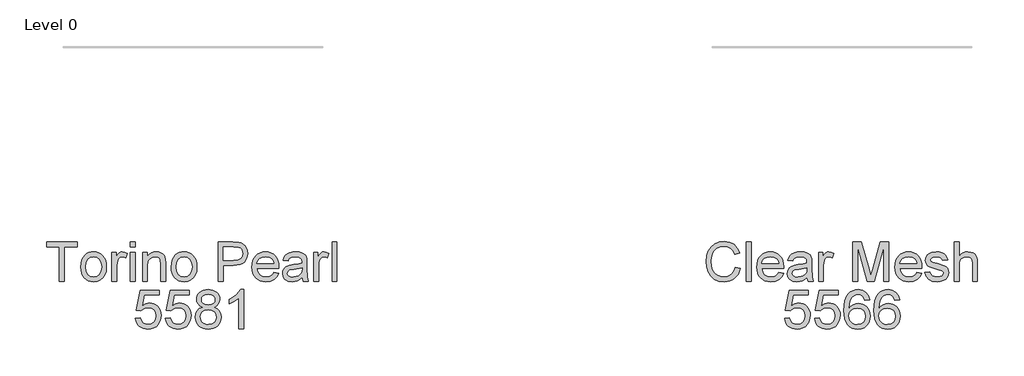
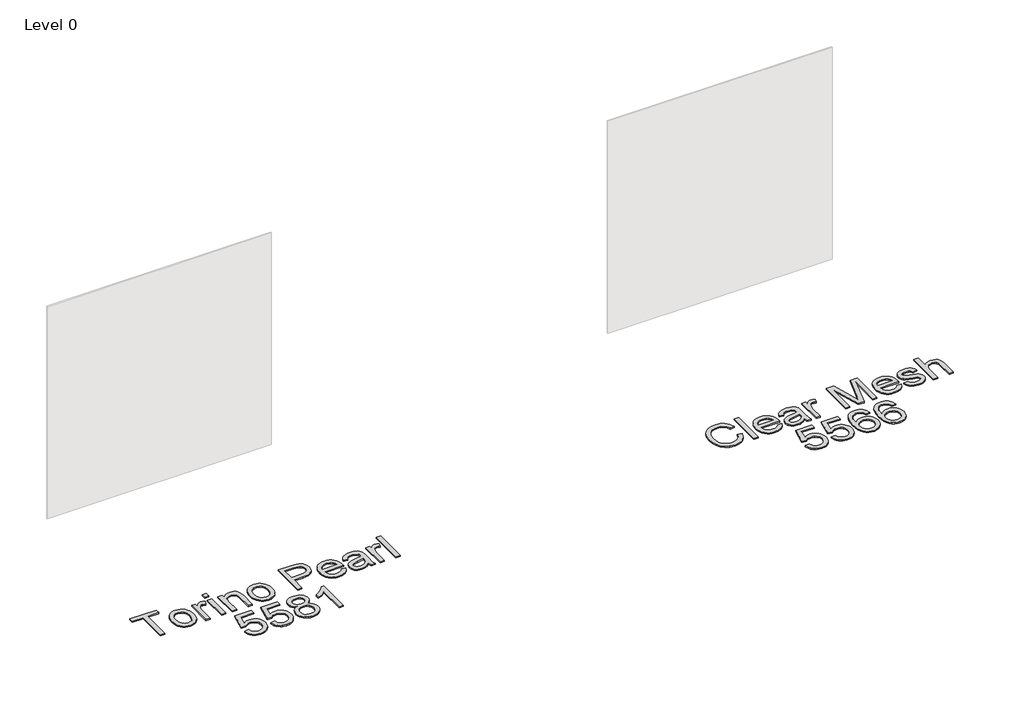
# One storey, part 7 of 8: 2 proxies.
"""IFC4 building model written with IfcOpenShell, lengths in millimetres."""

from ifc_helpers import new_model, si_unit, origin, origin_with_axes, place, context, project, spatial, polyline, outline, extrude, element, save

model = new_model("IFC4")

# Units and contexts
model_context = context("Model", 3, world=origin())
ifc_project = project(units=[si_unit("LENGTHUNIT", "METRE", prefix="MILLI")], contexts=[model_context])

# Site, building, storey
site = spatial("IfcSite", under=ifc_project)
building = spatial("IfcBuilding", under=site)
storey = spatial("IfcBuildingStorey", under=building, Name="Level 0", Elevation=0.0)

# Proxies
placement = place(None, origin())
element("IfcBuildingElementProxy", 1, Name="300mm Arial", ObjectType="300mm Arial", at=placement, inside=storey, context=model_context, shape_type="SweptSolid", body=[
    extrude(outline(polyline([(9727.6407193, -6895.733257), (9765.3118356, -6905.4453417), (9757.8576266, -6928.872527), (9747.9294113, -6949.3428607), (9735.5271895, -6966.856343), (9720.6509614, -6981.4129737), (9703.6364191, -6992.856403), (9684.819255, -7001.0302811), (9664.1994692, -7005.9346079), (9641.7770616, -7007.5693835), (9598.0818776, -7002.6213707), (9563.3814084, -6987.7773322), (9536.7835402, -6963.5523028), (9517.396159, -6930.4613173), (9505.5595558, -6891.5577963), (9501.6140214, -6849.8951604), (9506.0745906, -6805.9516561), (9519.4562982, -6768.0046283), (9541.0601684, -6737.2588905), (9570.1872253, -6714.9192564), (9604.7313447, -6701.3168196), (9642.586402, -6696.782674), (9683.890353, -6702.6503918), (9701.8590892, -6709.9850391), (9718.0389992, -6720.2535453), (9732.1633685, -6733.1845974), (9743.9654828, -6748.5068825), (9760.602946, -6786.3251516), (9722.9318297, -6795.3014723), (9709.8720189, -6767.8298843), (9692.0297421, -6748.9851291), (9669.1842702, -6738.086625), (9641.114874, -6734.4537903), (9608.7596525, -6738.4820981), (9582.1801784, -6750.5670217), (9562.011048, -6769.439368), (9548.8868578, -6793.8299443), (9541.6855678, -6821.4026999), (9539.2851377, -6849.821584), (9542.1270261, -6884.6232207), (9550.6526914, -6914.7159679), (9565.1840302, -6938.9501944), (9586.0429393, -6956.1762688), (9611.0497179, -6966.4677676), (9638.0246652, -6969.8982672), (9669.4693788, -6965.2261659), (9695.6717739, -6951.2098619), (9715.4546282, -6927.996508), (9727.6407193, -6895.733257)])), origin_with_axes(), (0.0, 0.0, 1.0), 10.0),
    extrude(outline(polyline([(9812.400731, -7002.860494), (9812.400731, -6701.4915635), (9850.0718473, -6701.4915635), (9850.0718473, -7002.860494), (9812.400731, -7002.860494)])), origin_with_axes(), (0.0, 0.0, 1.0), 10.0),
    extrude(outline(polyline([(10061.5304181, -6936.9360404), (10098.4657704, -6941.64493), (10085.1576392, -6969.4752029), (10063.9216511, -6990.2789297), (10035.2360525, -7003.2467701), (9999.5790901, -7007.5693835), (9976.2047878, -7005.7046817), (9955.3780684, -7000.1105761), (9937.0989317, -6990.7870668), (9921.3673779, -6977.7341537), (9908.7168358, -6961.3151204), (9899.6807343, -6941.8932503), (9894.2590734, -6919.4685435), (9892.4518531, -6894.0409998), (9894.2774675, -6867.7512327), (9899.7543107, -6844.5792656), (9908.8823827, -6824.5250983), (9921.6616835, -6807.5887309), (9937.3518506, -6794.133447), (9955.2125215, -6784.5225298), (9975.2436961, -6778.7559796), (9997.4453745, -6776.8337961), (10018.9319823, -6778.751381), (10038.3630494, -6784.5041357), (10055.7385759, -6794.0920602), (10071.0585618, -6807.5151545), (10083.5642503, -6824.4147337), (10092.496885, -6844.4321128), (10097.8564658, -6867.5672917), (10099.6429928, -6893.8202706), (10099.4222636, -6903.9738137), (9930.1229694, -6903.9738137), (9936.6436778, -6932.1719686), (9951.7912189, -6952.902119), (9973.6526065, -6965.6492302), (10000.3148541, -6969.8982672), (10020.3644228, -6967.9300985), (10037.2502064, -6962.0255925), (10050.9722048, -6951.8168672), (10061.5304181, -6936.9360404)]), holes=[polyline([(9930.1229694, -6866.3026974), (10061.9718765, -6866.3026974), (10056.8767108, -6846.4002814), (10046.8887147, -6832.1632482), (10024.9261596, -6818.9194964), (9997.2982217, -6814.5049125), (9971.905167, -6818.0273826), (9950.9083021, -6828.5947929), (9936.312584, -6845.0667092), (9930.1229694, -6866.3026974)])]), origin_with_axes(), (0.0, 0.0, 1.0), 10.0),
    extrude(outline(polyline([(10278.5807952, -6974.6071568), (10260.5821686, -6990.0398064), (10242.0501131, -7000.1381672), (10222.5615644, -7005.7115794), (10201.6934583, -7007.5693835), (10170.2119565, -7003.0996173), (10146.9894056, -6989.6903186), (10132.6695989, -6969.3280501), (10127.89633, -6943.9993748), (10129.6989518, -6928.3827841), (10135.1068171, -6914.2009331), (10143.4485414, -6902.0608273), (10154.0527399, -6892.5694718), (10180.4298789, -6880.2086368), (10213.0242237, -6874.5432541), (10251.5414686, -6868.5835657), (10278.360066, -6861.5938078), (10278.5807952, -6853.2060983), (10275.9872272, -6836.3938912), (10268.206523, -6825.3942195), (10250.8057046, -6817.2272392), (10226.5622811, -6814.5049125), (10204.1214794, -6816.3167313), (10188.4497064, -6821.7521878), (10177.7627345, -6831.8045633), (10170.2763359, -6847.4671392), (10132.6052196, -6842.7582497), (10139.144322, -6822.156858), (10148.9023919, -6805.9700502), (10162.7899373, -6793.590821), (10181.7174659, -6784.4121652), (10204.8664405, -6778.7283884), (10231.4183235, -6776.8337961), (10256.8849546, -6778.5076592), (10277.0724791, -6783.5292485), (10292.2935966, -6791.0800264), (10302.8610069, -6800.3414556), (10309.8691589, -6811.7917827), (10314.4125016, -6825.9092543), (10316.2519115, -6858.8714811), (10316.2519115, -6905.7396473), (10318.1648979, -6971.1858542), (10325.6696906, -7002.860494), (10287.9985743, -7002.860494), (10278.5807952, -6974.6071568)]), holes=[polyline([(10278.5807952, -6899.2649241), (10217.8066896, -6910.8164188), (10185.3962859, -6916.9232599), (10170.7177943, -6926.8560738), (10165.5674463, -6941.3506244), (10168.3725465, -6952.5526311), (10176.7878472, -6961.7312869), (10190.6294072, -6967.8565221), (10209.7132857, -6969.8982672), (10229.9467955, -6967.64499), (10247.8258604, -6960.8851583), (10262.3204111, -6950.9247533), (10272.4003777, -6939.069756), (10276.870144, -6926.8560738), (10278.360066, -6909.933502), (10278.5807952, -6899.2649241)])]), origin_with_axes(), (0.0, 0.0, 1.0), 10.0),
    extrude(outline(polyline([(10368.0496965, -7002.860494), (10368.0496965, -6781.5426857), (10401.0119232, -6781.5426857), (10401.0119232, -6814.2841833), (10413.1888173, -6795.3014723), (10424.4092181, -6784.1178596), (10435.6664072, -6778.654812), (10447.9536658, -6776.8337961), (10466.7156476, -6779.7400639), (10485.7719349, -6788.4588672), (10473.1903707, -6822.2304343), (10459.9466189, -6816.4362929), (10446.702867, -6814.5049125), (10435.454875, -6816.3627165), (10425.4024995, -6821.9361288), (10417.2815045, -6830.8020848), (10411.8276539, -6842.5375205), (10407.2475231, -6863.5803706), (10405.7208128, -6886.5362071), (10405.7208128, -7002.860494), (10368.0496965, -7002.860494)])), origin_with_axes(), (0.0, 0.0, 1.0), 10.0),
    extrude(outline(polyline([(10631.7475106, -7002.860494), (10631.7475106, -6701.4915635), (10696.5683182, -6701.4915635), (10758.2253406, -6913.9066275), (10770.659752, -6958.2731962), (10784.124233, -6910.2278076), (10844.7511858, -6701.4915635), (10909.5719934, -6701.4915635), (10909.5719934, -7002.860494), (10871.9008771, -7002.860494), (10871.9008771, -6739.1626798), (10796.1907625, -7002.860494), (10745.1287415, -7002.860494), (10669.4186269, -6739.1626798), (10669.4186269, -7002.860494), (10631.7475106, -7002.860494)])), origin_with_axes(), (0.0, 0.0, 1.0), 10.0),
    extrude(outline(polyline([(11125.7394537, -6936.9360404), (11162.6748061, -6941.64493), (11149.3666749, -6969.4752029), (11128.1306867, -6990.2789297), (11099.4450881, -7003.2467701), (11063.7881257, -7007.5693835), (11040.4138235, -7005.7046817), (11019.587104, -7000.1105761), (11001.3079674, -6990.7870668), (10985.5764136, -6977.7341537), (10972.9258715, -6961.3151204), (10963.88977, -6941.8932503), (10958.4681091, -6919.4685435), (10956.6608888, -6894.0409998), (10958.4865032, -6867.7512327), (10963.9633464, -6844.5792656), (10973.0914184, -6824.5250983), (10985.8707192, -6807.5887309), (11001.5608863, -6794.133447), (11019.4215571, -6784.5225298), (11039.4527318, -6778.7559796), (11061.6544102, -6776.8337961), (11083.141018, -6778.751381), (11102.5720851, -6784.5041357), (11119.9476116, -6794.0920602), (11135.2675974, -6807.5151545), (11147.773286, -6824.4147337), (11156.7059207, -6844.4321128), (11162.0655015, -6867.5672917), (11163.8520284, -6893.8202706), (11163.6312992, -6903.9738137), (10994.3320051, -6903.9738137), (11000.8527134, -6932.1719686), (11016.0002546, -6952.902119), (11037.8616421, -6965.6492302), (11064.5238897, -6969.8982672), (11084.5734585, -6967.9300985), (11101.4592421, -6962.0255925), (11115.1812405, -6951.8168672), (11125.7394537, -6936.9360404)]), holes=[polyline([(10994.3320051, -6866.3026974), (11126.1809121, -6866.3026974), (11121.0857465, -6846.4002814), (11111.0977503, -6832.1632482), (11089.1351952, -6818.9194964), (11061.5072574, -6814.5049125), (11036.1142027, -6818.0273826), (11015.1173378, -6828.5947929), (11000.5216196, -6845.0667092), (10994.3320051, -6866.3026974)])]), origin_with_axes(), (0.0, 0.0, 1.0), 10.0),
    extrude(outline(polyline([(11187.3964761, -6936.9360404), (11225.0675924, -6932.2271509), (11231.0088867, -6948.3403823), (11242.505199, -6960.1861825), (11259.6301059, -6967.470246), (11282.4571837, -6969.8982672), (11305.00835, -6967.6725811), (11320.864064, -6960.9955229), (11330.2450549, -6951.3202265), (11333.3720518, -6940.0998256), (11330.2266608, -6930.4981055), (11320.7904876, -6923.1772538), (11282.0157253, -6912.4350996), (11225.2883216, -6894.0042116), (11210.9317268, -6884.7427824), (11200.5298634, -6872.4831149), (11194.2114901, -6858.0069584), (11192.1053657, -6842.0960621), (11193.7976228, -6827.5003439), (11198.8743944, -6814.0266659), (11206.8758278, -6802.2084568), (11217.3420705, -6792.5791455), (11241.2911884, -6781.4323211), (11273.7015922, -6776.8337961), (11298.2209272, -6778.6824032), (11319.5396888, -6784.2282242), (11336.6829898, -6792.9286334), (11348.6759428, -6804.2410048), (11356.6221939, -6819.0022698), (11361.625389, -6838.0493601), (11323.9542727, -6842.7582497), (11319.1993979, -6830.9032524), (11309.7908159, -6821.972917), (11295.6365562, -6816.3719136), (11276.6446482, -6814.5049125), (11255.0131868, -6816.2891401), (11240.5922126, -6821.6418232), (11232.4804146, -6829.3673451), (11229.776482, -6838.2700893), (11234.2646423, -6849.2329728), (11248.3177345, -6857.5471059), (11280.7649265, -6865.5669334), (11336.0575904, -6883.2988455), (11350.6625056, -6891.7785255), (11361.7357536, -6903.3852025), (11368.7163145, -6918.1556646), (11371.0431681, -6936.1267001), (11368.3116443, -6954.7047408), (11360.1170729, -6972.1791356), (11346.7721535, -6987.1795239), (11328.5895859, -6998.3355454), (11306.6270308, -7005.260924), (11281.9421489, -7007.5693835), (11243.9583329, -7003.1180114), (11216.2384245, -6989.763895), (11197.7339602, -6967.654187), (11187.3964761, -6936.9360404)])), origin_with_axes(), (0.0, 0.0, 1.0), 10.0),
    extrude(outline(polyline([(11413.423174, -7002.860494), (11413.423174, -6701.4915635), (11451.0942903, -6701.4915635), (11451.0942903, -6812.2976205), (11464.9312518, -6796.7821973), (11480.4696676, -6785.6997522), (11497.7095376, -6779.0502852), (11516.6508618, -6776.8337961), (11539.4043632, -6779.2526203), (11558.9572913, -6786.5090926), (11574.3531528, -6798.0329961), (11584.6354545, -6813.2541137), (11590.4295959, -6834.1682051), (11592.3609764, -6862.7710302), (11592.3609764, -7002.860494), (11554.6898601, -7002.860494), (11554.6898601, -6866.6705794), (11551.6916219, -6843.0893435), (11542.6969071, -6826.9393239), (11528.2023565, -6817.6135153), (11508.7046107, -6814.5049125), (11492.7845174, -6816.6018398), (11477.8393113, -6822.8926219), (11465.4600822, -6832.7702535), (11457.2379196, -6845.6277292), (11452.6301976, -6862.7158479), (11451.0942903, -6885.2854083), (11451.0942903, -7002.860494), (11413.423174, -7002.860494)])), origin_with_axes(), (0.0, 0.0, 1.0), 10.0),
    extrude(outline(polyline([(10106.7063271, -7288.7338254), (10144.3774434, -7284.0249358), (10151.2936249, -7306.6404815), (10163.3601544, -7322.8364863), (10180.5218494, -7332.5761621), (10202.7235278, -7335.8227207), (10229.7260663, -7331.3069693), (10249.959576, -7317.7597148), (10262.5963226, -7296.7444558), (10266.8085714, -7269.8246908), (10262.863037, -7244.4776213), (10251.0264338, -7225.0902402), (10231.2067913, -7212.7845875), (10203.312139, -7208.6827032), (10185.0376009, -7210.3197781), (10170.2395477, -7215.2310027), (10149.0863329, -7232.2271509), (10111.4152166, -7227.5182614), (10144.3774434, -7072.1249066), (10290.3530191, -7072.1249066), (10290.3530191, -7109.7960229), (10174.8380726, -7109.7960229), (10158.7248412, -7192.790201), (10185.6354092, -7176.4562404), (10213.8335641, -7171.0115869), (10232.1793793, -7172.6992456), (10249.030674, -7177.7622215), (10264.387448, -7186.2005148), (10278.2497014, -7198.0141254), (10289.7253204, -7212.4810848), (10297.9221911, -7228.8794248), (10302.8403136, -7247.2091452), (10304.4796877, -7267.470246), (10298.5751817, -7305.1413624), (10291.1945492, -7321.9351754), (10280.8616636, -7337.3678251), (10265.2082847, -7353.1729553), (10246.9429437, -7364.4623341), (10226.0656404, -7371.2359613), (10202.576375, -7373.4938371), (10165.5766434, -7367.6904986), (10149.8979726, -7360.4363255), (10136.1000985, -7350.2804832), (10124.619881, -7337.7288093), (10115.8941799, -7323.2871418), (10106.7063271, -7288.7338254)])), origin_with_axes(), (0.0, 0.0, 1.0), 10.0),
    extrude(outline(polyline([(10337.4419145, -7288.7338254), (10375.1130308, -7284.0249358), (10382.0292123, -7306.6404815), (10394.0957417, -7322.8364863), (10411.2574368, -7332.5761621), (10433.4591152, -7335.8227207), (10460.4616537, -7331.3069693), (10480.6951634, -7317.7597148), (10493.3319099, -7296.7444558), (10497.5441588, -7269.8246908), (10493.5986244, -7244.4776213), (10481.7620212, -7225.0902402), (10461.9423787, -7212.7845875), (10434.0477264, -7208.6827032), (10415.7731883, -7210.3197781), (10400.975135, -7215.2310027), (10379.8219203, -7232.2271509), (10342.150804, -7227.5182614), (10375.1130308, -7072.1249066), (10521.0886065, -7072.1249066), (10521.0886065, -7109.7960229), (10405.57366, -7109.7960229), (10389.4604286, -7192.790201), (10416.3709965, -7176.4562404), (10444.5691515, -7171.0115869), (10462.9149667, -7172.6992456), (10479.7662614, -7177.7622215), (10495.1230354, -7186.2005148), (10508.9852888, -7198.0141254), (10520.4609078, -7212.4810848), (10528.6577785, -7228.8794248), (10533.5759009, -7247.2091452), (10535.2152751, -7267.470246), (10529.3107691, -7305.1413624), (10521.9301365, -7321.9351754), (10511.597251, -7337.3678251), (10495.9438721, -7353.1729553), (10477.678531, -7364.4623341), (10456.8012278, -7371.2359613), (10433.3119624, -7373.4938371), (10396.3122307, -7367.6904986), (10380.63356, -7360.4363255), (10366.8356859, -7350.2804832), (10355.3554684, -7337.7288093), (10346.6297673, -7323.2871418), (10337.4419145, -7288.7338254)])), origin_with_axes(), (0.0, 0.0, 1.0), 10.0),
    extrude(outline(polyline([(10761.2419729, -7147.4671392), (10723.5708566, -7152.1760288), (10717.5008037, -7133.5060175), (10709.2970352, -7120.7589064), (10692.2089165, -7109.0050766), (10671.5523425, -7105.0871334), (10654.0411595, -7107.3680017), (10637.5600461, -7114.2106069), (10623.4057864, -7128.622384), (10611.8450947, -7148.4604206), (10604.0367993, -7176.5206198), (10601.1397286, -7215.5988847), (10616.2504816, -7197.9681401), (10634.3594728, -7185.5429257), (10654.4550268, -7178.1760888), (10675.525468, -7175.7204764), (10693.6252622, -7177.3989381), (10710.3271048, -7182.4343229), (10725.6309958, -7190.8266309), (10739.5369352, -7202.5758621), (10751.0930284, -7216.9830407), (10759.3473806, -7233.349191), (10764.299992, -7251.6743129), (10765.9508625, -7271.9584064), (10762.8422596, -7298.9333537), (10753.516451, -7323.9401323), (10738.7459889, -7345.1485293), (10719.3034255, -7360.7283318), (10696.0716775, -7370.3024607), (10669.9336617, -7373.4938371), (10647.4767652, -7371.3785156), (10627.1949709, -7365.0325512), (10609.088279, -7354.4559438), (10593.1566893, -7339.6486935), (10580.1681556, -7319.9854009), (10570.8906316, -7294.8406665), (10565.3241171, -7264.2144904), (10563.4686123, -7228.1068726), (10565.5287515, -7187.6260575), (10571.709169, -7153.0773396), (10582.0098649, -7124.4607189), (10596.4308391, -7101.7761954), (10612.0612253, -7086.7436174), (10630.1840121, -7076.0060617), (10650.7991994, -7069.5635282), (10673.9067873, -7067.4160171), (10706.9609845, -7072.7319119), (10733.4300941, -7088.6795964), (10751.9713466, -7114.0082718), (10761.2419729, -7147.4671392)]), holes=[polyline([(10601.1397286, -7271.3697952), (10603.3194294, -7288.0624407), (10609.8585319, -7304.0009282), (10620.012075, -7317.7045325), (10633.0350976, -7327.6925287), (10648.7528558, -7333.7901727), (10666.9906058, -7335.8227207), (10691.8502316, -7331.6104719), (10711.3939626, -7318.9737254), (10724.0583003, -7299.1080976), (10728.2797461, -7273.2092052), (10724.1134826, -7248.3495793), (10711.6146918, -7229.3944595), (10691.739867, -7217.3923095), (10665.4455014, -7213.3915928), (10640.6226637, -7217.3923095), (10619.8649222, -7229.3944595), (10605.821027, -7247.8897269), (10601.1397286, -7271.3697952)])]), origin_with_axes(), (0.0, 0.0, 1.0), 10.0),
    extrude(outline(polyline([(10991.9775603, -7147.4671392), (10954.306444, -7152.1760288), (10948.2363911, -7133.5060175), (10940.0326226, -7120.7589064), (10922.9445039, -7109.0050766), (10902.2879299, -7105.0871334), (10884.7767469, -7107.3680017), (10868.2956335, -7114.2106069), (10854.1413737, -7128.622384), (10842.580682, -7148.4604206), (10834.7723867, -7176.5206198), (10831.875316, -7215.5988847), (10846.9860689, -7197.9681401), (10865.0950602, -7185.5429257), (10885.1906141, -7178.1760888), (10906.2610554, -7175.7204764), (10924.3608496, -7177.3989381), (10941.0626922, -7182.4343229), (10956.3665832, -7190.8266309), (10970.2725226, -7202.5758621), (10981.8286157, -7216.9830407), (10990.082968, -7233.349191), (10995.0355794, -7251.6743129), (10996.6864498, -7271.9584064), (10993.577847, -7298.9333537), (10984.2520384, -7323.9401323), (10969.4815763, -7345.1485293), (10950.0390128, -7360.7283318), (10926.8072648, -7370.3024607), (10900.6692491, -7373.4938371), (10878.2123525, -7371.3785156), (10857.9305583, -7365.0325512), (10839.8238663, -7354.4559438), (10823.8922767, -7339.6486935), (10810.903743, -7319.9854009), (10801.6262189, -7294.8406665), (10796.0597045, -7264.2144904), (10794.2041997, -7228.1068726), (10796.2643389, -7187.6260575), (10802.4447564, -7153.0773396), (10812.7454522, -7124.4607189), (10827.1664265, -7101.7761954), (10842.7968127, -7086.7436174), (10860.9195995, -7076.0060617), (10881.5347868, -7069.5635282), (10904.6423746, -7067.4160171), (10937.6965719, -7072.7319119), (10964.1656815, -7088.6795964), (10982.706934, -7114.0082718), (10991.9775603, -7147.4671392)]), holes=[polyline([(10831.875316, -7271.3697952), (10834.0550168, -7288.0624407), (10840.5941193, -7304.0009282), (10850.7476623, -7317.7045325), (10863.770685, -7327.6925287), (10879.4884432, -7333.7901727), (10897.7261931, -7335.8227207), (10922.5858189, -7331.6104719), (10942.1295499, -7318.9737254), (10954.7938876, -7299.1080976), (10959.0153335, -7273.2092052), (10954.8490699, -7248.3495793), (10942.3502791, -7229.3944595), (10922.4754544, -7217.3923095), (10896.1810887, -7213.3915928), (10871.3582511, -7217.3923095), (10850.6005095, -7229.3944595), (10836.5566144, -7247.8897269), (10831.875316, -7271.3697952)])]), origin_with_axes(), (0.0, 0.0, 1.0), 10.0),
])
element("IfcBuildingElementProxy", 2, Name="300mm Arial", ObjectType="300mm Arial", at=placement, inside=storey, context=model_context, shape_type="SweptSolid", body=[
    extrude(outline(polyline([(4520.4495796, -7002.860494), (4520.4495796, -6739.1626798), (4421.5628993, -6739.1626798), (4421.5628993, -6701.4915635), (4657.0073762, -6701.4915635), (4657.0073762, -6739.1626798), (4558.1206959, -6739.1626798), (4558.1206959, -7002.860494), (4520.4495796, -7002.860494)])), origin_with_axes(), (0.0, 0.0, 1.0), 10.0),
    extrude(outline(polyline([(4685.2607134, -6892.2015898), (4687.29786, -6863.5389839), (4693.4092996, -6838.8403064), (4703.5950324, -6818.1055575), (4717.8550582, -6801.334737), (4732.2116531, -6790.6155754), (4748.05817, -6782.9590314), (4765.394609, -6778.3651049), (4784.2209701, -6776.8337961), (4805.0040036, -6778.698498), (4823.7958758, -6784.2926036), (4840.5965866, -6793.6161129), (4855.4061362, -6806.669026), (4867.493359, -6823.0098843), (4876.1270896, -6842.1972296), (4881.3073279, -6864.2310619), (4883.034074, -6889.1113811), (4879.9806535, -6927.1687735), (4870.8203918, -6956.1394806), (4855.8200034, -6977.8353213), (4835.2462029, -6994.0681143), (4810.8096413, -7004.1940662), (4784.2209701, -7007.5693835), (4763.134434, -7005.7115794), (4744.1678179, -7000.1381672), (4727.3211218, -6990.8491468), (4712.5943457, -6977.8445183), (4700.6358816, -6961.3450108), (4692.0941215, -6941.5713536), (4686.9690654, -6918.5235466), (4685.2607134, -6892.2015898)]), holes=[polyline([(4722.9318297, -6892.1280134), (4727.2912314, -6926.2214773), (4740.3694363, -6950.5108861), (4760.051123, -6965.0514219), (4784.2209701, -6969.8982672), (4808.2804526, -6965.0238308), (4827.9253512, -6950.4005215), (4841.0035561, -6925.789216), (4845.3629577, -6890.950791), (4840.9759649, -6857.8506085), (4827.8149866, -6833.8922936), (4808.1424969, -6819.3517577), (4784.2209701, -6814.5049125), (4760.051123, -6819.3333636), (4740.3694363, -6833.8187172), (4727.2912314, -6858.0529436), (4722.9318297, -6892.1280134)])]), origin_with_axes(), (0.0, 0.0, 1.0), 10.0),
    extrude(outline(polyline([(4925.4140799, -7002.860494), (4925.4140799, -6781.5426857), (4958.3763066, -6781.5426857), (4958.3763066, -6814.2841833), (4970.5532007, -6795.3014723), (4981.7736015, -6784.1178596), (4993.0307906, -6778.654812), (5005.3180492, -6776.8337961), (5024.080031, -6779.7400639), (5043.1363183, -6788.4588672), (5030.5547541, -6822.2304343), (5017.3110023, -6816.4362929), (5004.0672504, -6814.5049125), (4992.8192584, -6816.3627165), (4982.7668829, -6821.9361288), (4974.6458879, -6830.8020848), (4969.1920373, -6842.5375205), (4964.6119065, -6863.5803706), (4963.0851962, -6886.5362071), (4963.0851962, -7002.860494), (4925.4140799, -7002.860494)])), origin_with_axes(), (0.0, 0.0, 1.0), 10.0),
    extrude(outline(polyline([(5066.680766, -7002.860494), (5066.680766, -6781.5426857), (5104.3518823, -6781.5426857), (5104.3518823, -7002.860494), (5066.680766, -7002.860494)])), origin_with_axes(), (0.0, 0.0, 1.0), 10.0),
    extrude(outline(polyline([(5066.680766, -6739.1626798), (5066.680766, -6701.4915635), (5104.3518823, -6701.4915635), (5104.3518823, -6739.1626798), (5066.680766, -6739.1626798)])), origin_with_axes(), (0.0, 0.0, 1.0), 10.0),
    extrude(outline(polyline([(5160.8585568, -7002.860494), (5160.8585568, -6781.5426857), (5198.5296731, -6781.5426857), (5198.5296731, -6812.4447733), (5211.6170751, -6796.8649708), (5227.3348333, -6785.7365404), (5245.6829478, -6779.0594822), (5266.6614186, -6776.8337961), (5285.2302623, -6778.6272209), (5302.2356075, -6784.0074951), (5316.4174584, -6792.303234), (5326.5158192, -6802.8430532), (5337.8097965, -6830.5445674), (5339.7963592, -6866.964885), (5339.7963592, -7002.860494), (5302.1252429, -7002.860494), (5302.1252429, -6872.0416565), (5297.7842354, -6838.7115477), (5291.7785618, -6828.7879309), (5282.4435562, -6821.0900002), (5270.4781943, -6816.1511844), (5256.5814519, -6814.5049125), (5234.5177293, -6818.2021265), (5215.7097623, -6829.2937687), (5208.1934733, -6838.3482643), (5202.8246954, -6850.7228949), (5198.5296731, -6885.4325611), (5198.5296731, -7002.860494), (5160.8585568, -7002.860494)])), origin_with_axes(), (0.0, 0.0, 1.0), 10.0),
    extrude(outline(polyline([(5382.1763651, -6892.2015898), (5384.2135116, -6863.5389839), (5390.3249513, -6838.8403064), (5400.510684, -6818.1055575), (5414.7707099, -6801.334737), (5429.1273047, -6790.6155754), (5444.9738217, -6782.9590314), (5462.3102607, -6778.3651049), (5481.1366218, -6776.8337961), (5501.9196553, -6778.698498), (5520.7115274, -6784.2926036), (5537.5122383, -6793.6161129), (5552.3217879, -6806.669026), (5564.4090107, -6823.0098843), (5573.0427412, -6842.1972296), (5578.2229796, -6864.2310619), (5579.9497257, -6889.1113811), (5576.8963051, -6927.1687735), (5567.7360435, -6956.1394806), (5552.7356551, -6977.8353213), (5532.1618545, -6994.0681143), (5507.725293, -7004.1940662), (5481.1366218, -7007.5693835), (5460.0500857, -7005.7115794), (5441.0834696, -7000.1381672), (5424.2367734, -6990.8491468), (5409.5099973, -6977.8445183), (5397.5515332, -6961.3450108), (5389.0097731, -6941.5713536), (5383.8847171, -6918.5235466), (5382.1763651, -6892.2015898)]), holes=[polyline([(5419.8474814, -6892.1280134), (5424.206883, -6926.2214773), (5437.285088, -6950.5108861), (5456.9667747, -6965.0514219), (5481.1366218, -6969.8982672), (5505.1961043, -6965.0238308), (5524.8410028, -6950.4005215), (5537.9192077, -6925.789216), (5542.2786094, -6890.950791), (5537.8916166, -6857.8506085), (5524.7306382, -6833.8922936), (5505.0581485, -6819.3517577), (5481.1366218, -6814.5049125), (5456.9667747, -6819.3333636), (5437.285088, -6833.8187172), (5424.206883, -6858.0529436), (5419.8474814, -6892.1280134)])]), origin_with_axes(), (0.0, 0.0, 1.0), 10.0),
    extrude(outline(polyline([(5744.7608595, -7002.860494), (5744.7608595, -6701.4915635), (5856.4498333, -6701.4915635), (5901.4785895, -6704.3610431), (5921.5557494, -6709.7229232), (5938.082848, -6718.4509235), (5951.3909792, -6730.9405172), (5961.8112367, -6747.5871775), (5968.5434772, -6767.222879), (5970.7875574, -6788.6795964), (5969.2723434, -6807.1794622), (5964.7267015, -6824.198603), (5957.1506317, -6839.7370188), (5946.5441339, -6853.7947095), (5931.9829047, -6865.4473717), (5912.5426405, -6873.7707019), (5888.2233413, -6878.7647), (5859.0250072, -6880.429366), (5782.4319758, -6880.429366), (5782.4319758, -7002.860494), (5744.7608595, -7002.860494)]), holes=[polyline([(5782.4319758, -6842.7582497), (5861.2322992, -6842.7582497), (5894.6359844, -6839.3001589), (5916.7089041, -6828.9258867), (5929.0145568, -6812.2792264), (5933.1164411, -6790.0039716), (5930.6976169, -6773.0813998), (5923.4411446, -6758.8075784), (5912.2483349, -6748.0654241), (5898.0204987, -6741.7378538), (5860.3493824, -6739.1626798), (5782.4319758, -6739.1626798), (5782.4319758, -6842.7582497)])]), origin_with_axes(), (0.0, 0.0, 1.0), 10.0),
    extrude(outline(polyline([(6172.8283491, -6936.9360404), (6209.7637014, -6941.64493), (6196.4555703, -6969.4752029), (6175.2195821, -6990.2789297), (6146.5339835, -7003.2467701), (6110.8770211, -7007.5693835), (6087.5027189, -7005.7046817), (6066.6759994, -7000.1105761), (6048.3968628, -6990.7870668), (6032.665309, -6977.7341537), (6020.0147668, -6961.3151204), (6010.9786653, -6941.8932503), (6005.5570044, -6919.4685435), (6003.7497841, -6894.0409998), (6005.5753985, -6867.7512327), (6011.0522417, -6844.5792656), (6020.1803137, -6824.5250983), (6032.9596146, -6807.5887309), (6048.6497816, -6794.133447), (6066.5104525, -6784.5225298), (6086.5416271, -6778.7559796), (6108.7433056, -6776.8337961), (6130.2299133, -6778.751381), (6149.6609805, -6784.5041357), (6167.036507, -6794.0920602), (6182.3564928, -6807.5151545), (6194.8621814, -6824.4147337), (6203.7948161, -6844.4321128), (6209.1543969, -6867.5672917), (6210.9409238, -6893.8202706), (6210.7201946, -6903.9738137), (6041.4209004, -6903.9738137), (6047.9416088, -6932.1719686), (6063.08915, -6952.902119), (6084.9505375, -6965.6492302), (6111.6127851, -6969.8982672), (6131.6623539, -6967.9300985), (6148.5481374, -6962.0255925), (6162.2701359, -6951.8168672), (6172.8283491, -6936.9360404)]), holes=[polyline([(6041.4209004, -6866.3026974), (6173.2698075, -6866.3026974), (6168.1746419, -6846.4002814), (6158.1866457, -6832.1632482), (6136.2240906, -6818.9194964), (6108.5961528, -6814.5049125), (6083.203098, -6818.0273826), (6062.2062332, -6828.5947929), (6047.610515, -6845.0667092), (6041.4209004, -6866.3026974)])]), origin_with_axes(), (0.0, 0.0, 1.0), 10.0),
    extrude(outline(polyline([(6389.8787263, -6974.6071568), (6371.8800997, -6990.0398064), (6353.3480442, -7000.1381672), (6333.8594955, -7005.7115794), (6312.9913893, -7007.5693835), (6281.5098875, -7003.0996173), (6258.2873366, -6989.6903186), (6243.9675299, -6969.3280501), (6239.194261, -6943.9993748), (6240.9968828, -6928.3827841), (6246.4047482, -6914.2009331), (6254.7464724, -6902.0608273), (6265.3506709, -6892.5694718), (6291.72781, -6880.2086368), (6324.3221547, -6874.5432541), (6362.8393996, -6868.5835657), (6389.6579971, -6861.5938078), (6389.8787263, -6853.2060983), (6387.2851582, -6836.3938912), (6379.504454, -6825.3942195), (6362.1036356, -6817.2272392), (6337.8602122, -6814.5049125), (6315.4194104, -6816.3167313), (6299.7476375, -6821.7521878), (6289.0606655, -6831.8045633), (6281.5742669, -6847.4671392), (6243.9031506, -6842.7582497), (6250.4422531, -6822.156858), (6260.200323, -6805.9700502), (6274.0878683, -6793.590821), (6293.0153969, -6784.4121652), (6316.1643715, -6778.7283884), (6342.7162545, -6776.8337961), (6368.1828856, -6778.5076592), (6388.3704101, -6783.5292485), (6403.5915276, -6791.0800264), (6414.158938, -6800.3414556), (6421.16709, -6811.7917827), (6425.7104326, -6825.9092543), (6427.5498426, -6858.8714811), (6427.5498426, -6905.7396473), (6429.462829, -6971.1858542), (6436.9676217, -7002.860494), (6399.2965053, -7002.860494), (6389.8787263, -6974.6071568)]), holes=[polyline([(6389.8787263, -6899.2649241), (6329.1046207, -6910.8164188), (6296.6942169, -6916.9232599), (6282.0157253, -6926.8560738), (6276.8653774, -6941.3506244), (6279.6704776, -6952.5526311), (6288.0857782, -6961.7312869), (6301.9273383, -6967.8565221), (6321.0112168, -6969.8982672), (6341.2447265, -6967.64499), (6359.1237915, -6960.8851583), (6373.6183421, -6950.9247533), (6383.6983088, -6939.069756), (6388.168075, -6926.8560738), (6389.6579971, -6909.933502), (6389.8787263, -6899.2649241)])]), origin_with_axes(), (0.0, 0.0, 1.0), 10.0),
    extrude(outline(polyline([(6479.3476275, -7002.860494), (6479.3476275, -6781.5426857), (6512.3098543, -6781.5426857), (6512.3098543, -6814.2841833), (6524.4867483, -6795.3014723), (6535.7071492, -6784.1178596), (6546.9643382, -6778.654812), (6559.2515969, -6776.8337961), (6578.0135786, -6779.7400639), (6597.069866, -6788.4588672), (6584.4883017, -6822.2304343), (6571.2445499, -6816.4362929), (6558.0007981, -6814.5049125), (6546.7528061, -6816.3627165), (6536.7004305, -6821.9361288), (6528.5794355, -6830.8020848), (6523.1255849, -6842.5375205), (6518.5454541, -6863.5803706), (6517.0187438, -6886.5362071), (6517.0187438, -7002.860494), (6479.3476275, -7002.860494)])), origin_with_axes(), (0.0, 0.0, 1.0), 10.0),
    extrude(outline(polyline([(6620.6143136, -7002.860494), (6620.6143136, -6701.4915635), (6658.28543, -6701.4915635), (6658.28543, -7002.860494), (6620.6143136, -7002.860494)])), origin_with_axes(), (0.0, 0.0, 1.0), 10.0),
    extrude(outline(polyline([(5106.7063271, -7288.7338254), (5144.3774434, -7284.0249358), (5151.2936249, -7306.6404815), (5163.3601544, -7322.8364863), (5180.5218494, -7332.5761621), (5202.7235278, -7335.8227207), (5229.7260663, -7331.3069693), (5249.959576, -7317.7597148), (5262.5963226, -7296.7444558), (5266.8085714, -7269.8246908), (5262.863037, -7244.4776213), (5251.0264338, -7225.0902402), (5231.2067913, -7212.7845875), (5203.312139, -7208.6827032), (5185.0376009, -7210.3197781), (5170.2395477, -7215.2310027), (5149.0863329, -7232.2271509), (5111.4152166, -7227.5182614), (5144.3774434, -7072.1249066), (5290.3530191, -7072.1249066), (5290.3530191, -7109.7960229), (5174.8380726, -7109.7960229), (5158.7248412, -7192.790201), (5185.6354092, -7176.4562404), (5213.8335641, -7171.0115869), (5232.1793793, -7172.6992456), (5249.030674, -7177.7622215), (5264.387448, -7186.2005148), (5278.2497014, -7198.0141254), (5289.7253204, -7212.4810848), (5297.9221911, -7228.8794248), (5302.8403136, -7247.2091452), (5304.4796877, -7267.470246), (5298.5751817, -7305.1413624), (5291.1945492, -7321.9351754), (5280.8616636, -7337.3678251), (5265.2082847, -7353.1729553), (5246.9429437, -7364.4623341), (5226.0656404, -7371.2359613), (5202.576375, -7373.4938371), (5165.5766434, -7367.6904986), (5149.8979726, -7360.4363255), (5136.1000985, -7350.2804832), (5124.619881, -7337.7288093), (5115.8941799, -7323.2871418), (5106.7063271, -7288.7338254)])), origin_with_axes(), (0.0, 0.0, 1.0), 10.0),
    extrude(outline(polyline([(5337.4419145, -7288.7338254), (5375.1130308, -7284.0249358), (5382.0292123, -7306.6404815), (5394.0957417, -7322.8364863), (5411.2574368, -7332.5761621), (5433.4591152, -7335.8227207), (5460.4616537, -7331.3069693), (5480.6951634, -7317.7597148), (5493.3319099, -7296.7444558), (5497.5441588, -7269.8246908), (5493.5986244, -7244.4776213), (5481.7620212, -7225.0902402), (5461.9423787, -7212.7845875), (5434.0477264, -7208.6827032), (5415.7731883, -7210.3197781), (5400.975135, -7215.2310027), (5379.8219203, -7232.2271509), (5342.150804, -7227.5182614), (5375.1130308, -7072.1249066), (5521.0886065, -7072.1249066), (5521.0886065, -7109.7960229), (5405.57366, -7109.7960229), (5389.4604286, -7192.790201), (5416.3709965, -7176.4562404), (5444.5691515, -7171.0115869), (5462.9149667, -7172.6992456), (5479.7662614, -7177.7622215), (5495.1230354, -7186.2005148), (5508.9852888, -7198.0141254), (5520.4609078, -7212.4810848), (5528.6577785, -7228.8794248), (5533.5759009, -7247.2091452), (5535.2152751, -7267.470246), (5529.3107691, -7305.1413624), (5521.9301365, -7321.9351754), (5511.597251, -7337.3678251), (5495.9438721, -7353.1729553), (5477.678531, -7364.4623341), (5456.8012278, -7371.2359613), (5433.3119624, -7373.4938371), (5396.3122307, -7367.6904986), (5380.63356, -7360.4363255), (5366.8356859, -7350.2804832), (5355.3554684, -7337.7288093), (5346.6297673, -7323.2871418), (5337.4419145, -7288.7338254)])), origin_with_axes(), (0.0, 0.0, 1.0), 10.0),
    extrude(outline(polyline([(5623.0654955, -7202.7965913), (5602.8963651, -7192.8637774), (5588.7421054, -7179.3992964), (5580.381987, -7162.6790597), (5577.5952809, -7142.9789789), (5579.1127942, -7127.6153071), (5583.6653338, -7113.5300252), (5591.2529, -7100.7231332), (5601.8754926, -7089.1946312), (5615.0226754, -7079.6664875), (5630.1840121, -7072.8606706), (5666.5491474, -7067.4160171), (5703.1350118, -7072.9894293), (5718.4618954, -7079.9561946), (5731.8114133, -7089.709666), (5742.627144, -7101.4634957), (5750.3526659, -7114.4313361), (5754.987979, -7128.613187), (5756.5330834, -7144.0090485), (5753.7831655, -7163.0745329), (5745.5334117, -7179.509661), (5731.6918517, -7192.8913686), (5712.1665148, -7202.7965913), (5735.3522775, -7214.7435591), (5752.228864, -7232.3375155), (5762.5203628, -7254.732332), (5765.9508625, -7281.0818799), (5764.2494082, -7299.8714528), (5759.1450455, -7317.0975272), (5750.6377744, -7332.7601031), (5738.7275948, -7346.8591806), (5724.0399062, -7358.5118428), (5707.2001078, -7366.8351729), (5688.2081998, -7371.829171), (5667.0641821, -7373.4938371), (5645.9201645, -7371.8222732), (5626.9282565, -7366.8075818), (5610.0884581, -7358.4497627), (5595.4007695, -7346.748816), (5583.4905899, -7332.5508703), (5574.9833188, -7316.702054), (5569.8789561, -7299.2023674), (5568.1775018, -7280.0518103), (5571.7459572, -7252.6813898), (5582.4513233, -7230.1670117), (5599.741777, -7213.2812282), (5623.0654955, -7202.7965913)]), holes=[polyline([(5605.8486182, -7278.7274351), (5612.1394003, -7307.0911369), (5620.8490065, -7319.2588339), (5634.396261, -7328.317928), (5650.619857, -7333.9465226), (5667.3584877, -7335.8227207), (5692.9998628, -7331.8771864), (5712.2400912, -7320.0405832), (5724.2698324, -7302.1155329), (5728.2797461, -7279.9046575), (5724.1410737, -7257.316703), (5711.7250564, -7238.9961796), (5692.0433696, -7226.8560738), (5666.107689, -7222.8093718), (5640.8249988, -7226.8008915), (5621.7779085, -7238.7754504), (5609.8309407, -7256.7464859), (5605.8486182, -7278.7274351)]), polyline([(5615.2663972, -7144.0826249), (5618.6049263, -7160.52695), (5628.6205137, -7173.6603373), (5645.0188536, -7182.268776), (5667.5056405, -7185.1382555), (5689.4681957, -7182.2871701), (5705.6182152, -7173.7339137), (5715.5510291, -7161.0419848), (5718.8619671, -7145.774882), (5715.4406645, -7129.9283651), (5705.1767568, -7116.822569), (5688.8060081, -7108.0209923), (5667.0641821, -7105.0871334), (5645.1844005, -7107.9566129), (5628.8412429, -7116.5650516), (5618.6601086, -7129.1834041), (5615.2663972, -7144.0826249)])]), origin_with_axes(), (0.0, 0.0, 1.0), 10.0),
    extrude(outline(polyline([(5940.1797754, -7368.7849475), (5902.5086591, -7368.7849475), (5902.5086591, -7133.9290818), (5866.8241055, -7159.3497277), (5827.1664265, -7178.3692268), (5827.1664265, -7142.7582497), (5856.7533359, -7126.6634124), (5882.3855139, -7107.5151545), (5902.5914325, -7087.1528861), (5915.8995637, -7067.4160171), (5940.1797754, -7067.4160171), (5940.1797754, -7368.7849475)])), origin_with_axes(), (0.0, 0.0, 1.0), 10.0),
])

save(model, "model.ifc")
